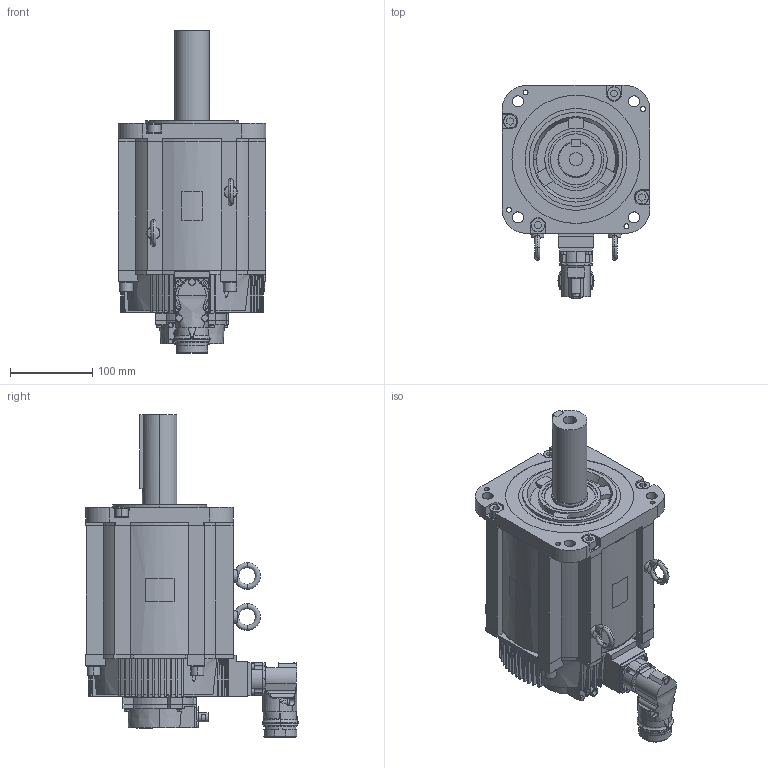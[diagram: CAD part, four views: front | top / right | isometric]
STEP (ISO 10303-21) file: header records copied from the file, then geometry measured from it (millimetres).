
FILE_DESCRIPTION (( 'STEP AP203' ), '1' );
FILE_NAME ('sgm7g_75d_f6f.STEP', '2017-06-16T06:56:09', ( '匠エンジニアリング山之内' ), ( 'TAKUMI-Engniaring' ), 'SwSTEP 2.0', 'SolidWorks 2006303', '' );
FILE_SCHEMA (( 'CONFIG_CONTROL_DESIGN' ));
Length unit declared in the file: millimetre
Products named in the file (5): sgm7g_75d_f6f_base; sgm7g_75d_f6f_key; sgm7g_75d_f6f; sgm7g_75d_f6f_eyebolt; sgm7g_75d_f6f_connector
Assembly tree (5 placements, depth 2):
  sgm7g_75d_f6f
    sgm7g_75d_f6f_key
    sgm7g_75d_f6f_eyebolt  x2
    sgm7g_75d_f6f_base
    sgm7g_75d_f6f_connector
Bounding box: 180 x 259 x 393 mm (x, y, z)
Volume: 6461024.8 mm3; surface area: 331843.9 mm2
Topology: 5 solids, 5 shells, 1130 faces, 3021 edges, 1982 vertices
Faces by surface type: plane 715, cylinder 277, cone 117, torus 13, bspline 8
Entity records: 36932 total; most frequent: CARTESIAN_POINT 8129, ORIENTED_EDGE 5988, DIRECTION 5853, EDGE_CURVE 2994, AXIS2_PLACEMENT_3D 2027, VERTEX_POINT 1966, VECTOR 1799, LINE 1799
